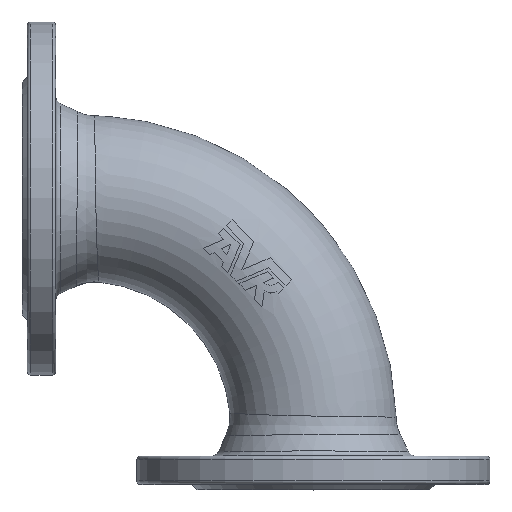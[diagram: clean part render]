
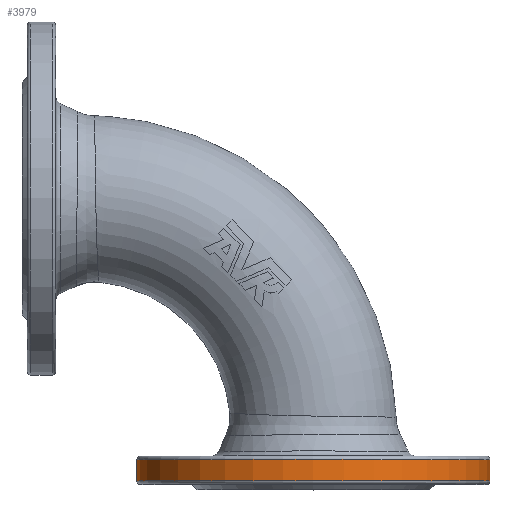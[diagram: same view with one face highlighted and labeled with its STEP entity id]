
A CAD part, top view. The second image highlights one B-rep face of the part: STEP entity #3979.
In plain terms, the highlighted cylindrical face has radius 100 mm (diameter 200 mm), a partial arc.
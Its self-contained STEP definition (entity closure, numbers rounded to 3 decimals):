
#33 = EDGE_CURVE ( 'Defeatured_0_51+Defeatured_0_50+Defeatured_0_50+Defeatured_0_50', #2877, #2972, #2982, .T. ) ;
#119 = CARTESIAN_POINT ( 'NONE',  ( 0., -128.844, 0. ) ) ;
#534 = VECTOR ( 'NONE', #1721, 1000. ) ;
#697 = DIRECTION ( 'NONE',  ( 0., 1., 0. ) ) ;
#879 = VERTEX_POINT ( 'NONE', #4585 ) ;
#930 = FACE_OUTER_BOUND ( 'NONE', #3927, .T. ) ;
#998 = AXIS2_PLACEMENT_3D ( 'NONE', #4786, #697, #4257 ) ;
#1074 = CARTESIAN_POINT ( 'NONE',  ( -100., -128.844, 0. ) ) ;
#1107 = VECTOR ( 'NONE', #2772, 1000. ) ;
#1287 = DIRECTION ( 'NONE',  ( 0., 1., 0. ) ) ;
#1297 = CARTESIAN_POINT ( 'NONE',  ( 100., -128.844, 0. ) ) ;
#1721 = DIRECTION ( 'NONE',  ( 0., 1., 0. ) ) ;
#1833 = CIRCLE ( 'NONE', #3638, 100. ) ;
#2018 = CARTESIAN_POINT ( 'NONE',  ( 100., -148., 0. ) ) ;
#2060 = DIRECTION ( 'NONE',  ( -1., 0., 0. ) ) ;
#2247 = CARTESIAN_POINT ( 'NONE',  ( 100., -160., 0. ) ) ;
#2521 = DIRECTION ( 'NONE',  ( -1., 0., 0. ) ) ;
#2576 = CYLINDRICAL_SURFACE ( 'NONE', #4610, 100. ) ;
#2705 = EDGE_CURVE ( 'NONE', #2877, #879, #4878, .T. ) ;
#2772 = DIRECTION ( 'NONE',  ( 0., 1., 0. ) ) ;
#2877 = VERTEX_POINT ( 'NONE', #2911 ) ;
#2911 = CARTESIAN_POINT ( 'NONE',  ( -100., -160., 0. ) ) ;
#2964 = VERTEX_POINT ( 'NONE', #2018 ) ;
#2972 = VERTEX_POINT ( 'NONE', #2247 ) ;
#2982 = CIRCLE ( 'NONE', #998, 100. ) ;
#3267 = ORIENTED_EDGE ( 'NONE', *, *, #33, .T. ) ;
#3493 = ORIENTED_EDGE ( 'NONE', *, *, #2705, .F. ) ;
#3638 = AXIS2_PLACEMENT_3D ( 'NONE', #4982, #1287, #2521 ) ;
#3927 = EDGE_LOOP ( 'NONE', ( #3267, #5229, #4307, #3493 ) ) ;
#3939 = EDGE_CURVE ( 'Defeatured_0_52+Defeatured_0_51+Defeatured_0_51+Defeatured_0_51', #879, #2964, #1833, .T. ) ;
#3979 = ADVANCED_FACE ( 'Defeatured_0_51', ( #930 ), #2576, .T. ) ;
#4257 = DIRECTION ( 'NONE',  ( -1., 0., 0. ) ) ;
#4307 = ORIENTED_EDGE ( 'NONE', *, *, #3939, .F. ) ;
#4585 = CARTESIAN_POINT ( 'NONE',  ( -100., -148., 0. ) ) ;
#4610 = AXIS2_PLACEMENT_3D ( 'NONE', #119, #4922, #2060 ) ;
#4640 = LINE ( 'NONE', #1297, #534 ) ;
#4786 = CARTESIAN_POINT ( 'NONE',  ( 0., -160., 0. ) ) ;
#4878 = LINE ( 'NONE', #1074, #1107 ) ;
#4922 = DIRECTION ( 'NONE',  ( 0., 1., 0. ) ) ;
#4982 = CARTESIAN_POINT ( 'NONE',  ( 0., -148., 0. ) ) ;
#5229 = ORIENTED_EDGE ( 'NONE', *, *, #5314, .T. ) ;
#5314 = EDGE_CURVE ( 'NONE', #2972, #2964, #4640, .T. ) ;
